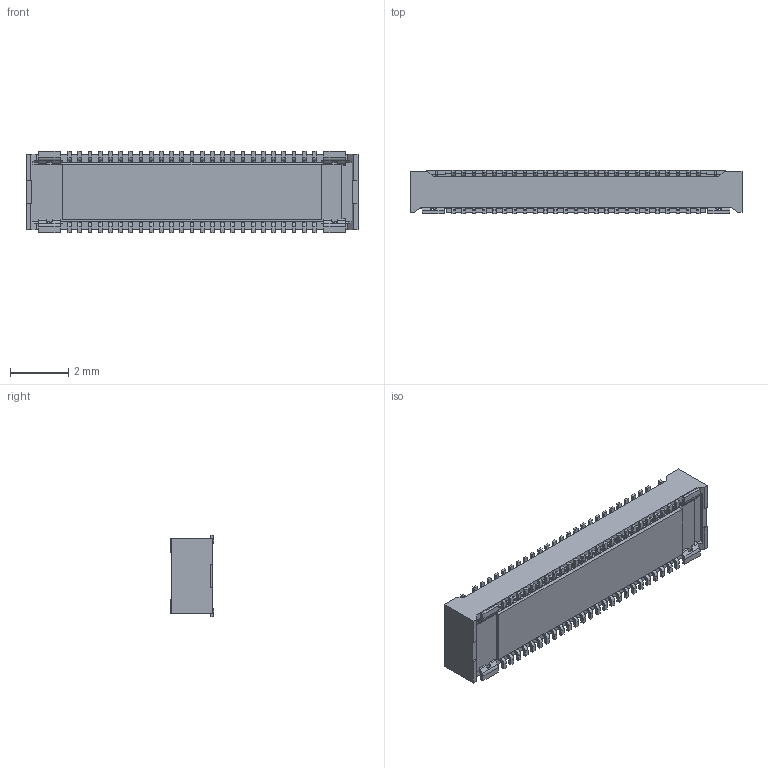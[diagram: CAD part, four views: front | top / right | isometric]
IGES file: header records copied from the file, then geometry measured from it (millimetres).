
Start section: SolidWorks IGES file using analytic representation for surfaces
Global section: file name: C:\3dwork\fukushima\35-PH\001-1 NOVA35 量産モデル【小芯数&ハイト追加】\3Dmodel\50P\20842-050E-21+20843-050E-21 for MATING IGES.IGS; native system: SolidWorks 2017; preprocessor: SolidWorks 2017; author: ipxcad-014; date: 180704.141357; units: millimetre
Bounding box: 11.4 x 1.5 x 2.8 mm (x, y, z)
Surface area: 125.9 mm2 (no closed solid volume)
Topology: 0 solids, 0 shells, 1270 faces, 8632 edges, 8632 vertices
Faces by surface type: bspline 922, revolution 348
